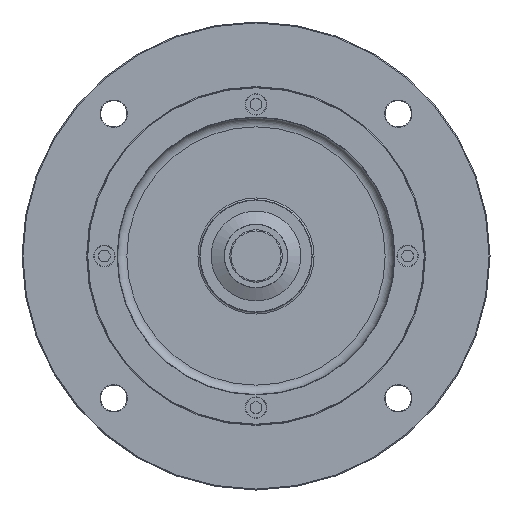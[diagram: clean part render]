
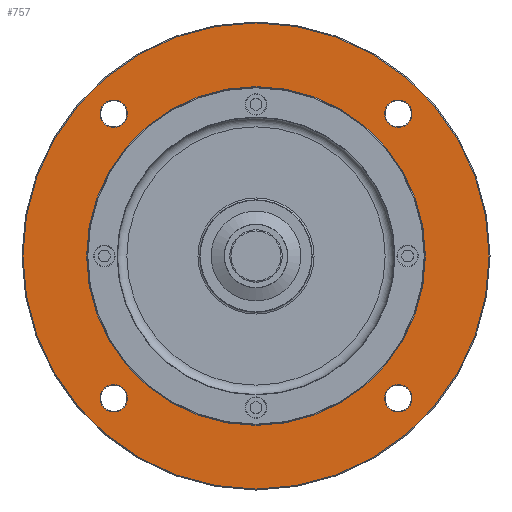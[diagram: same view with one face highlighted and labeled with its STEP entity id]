
A CAD part, front view. The second image highlights one B-rep face of the part: STEP entity #757.
In plain terms, the highlighted planar face has unit normal (0, -1, 0).
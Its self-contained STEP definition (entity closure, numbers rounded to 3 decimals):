
#757=ADVANCED_FACE('',(#1325,#1326,#1327,#1328,#1329,#1127),#1050,.T.);
#1050=PLANE('',#4331);
#1127=FACE_OUTER_BOUND('',#1662,.T.);
#1325=FACE_BOUND('',#1657,.T.);
#1326=FACE_BOUND('',#1658,.T.);
#1327=FACE_BOUND('',#1659,.T.);
#1328=FACE_BOUND('',#1660,.T.);
#1329=FACE_BOUND('',#1661,.T.);
#1657=EDGE_LOOP('',(#2182));
#1658=EDGE_LOOP('',(#2183));
#1659=EDGE_LOOP('',(#2184));
#1660=EDGE_LOOP('',(#2185));
#1661=EDGE_LOOP('',(#2186));
#1662=EDGE_LOOP('',(#2187));
#2182=ORIENTED_EDGE('',*,*,#3502,.T.);
#2183=ORIENTED_EDGE('',*,*,#3503,.T.);
#2184=ORIENTED_EDGE('',*,*,#3504,.T.);
#2185=ORIENTED_EDGE('',*,*,#3505,.T.);
#2186=ORIENTED_EDGE('',*,*,#3506,.T.);
#2187=ORIENTED_EDGE('',*,*,#3507,.T.);
#3120=VERTEX_POINT('',#6414);
#3121=VERTEX_POINT('',#6416);
#3122=VERTEX_POINT('',#6418);
#3123=VERTEX_POINT('',#6420);
#3124=VERTEX_POINT('',#6422);
#3125=VERTEX_POINT('',#6424);
#3502=EDGE_CURVE('',#3120,#3120,#3971,.T.);
#3503=EDGE_CURVE('',#3121,#3121,#3972,.T.);
#3504=EDGE_CURVE('',#3122,#3122,#3973,.T.);
#3505=EDGE_CURVE('',#3123,#3123,#3974,.T.);
#3506=EDGE_CURVE('',#3124,#3124,#3975,.T.);
#3507=EDGE_CURVE('',#3125,#3125,#3976,.T.);
#3971=CIRCLE('',#4325,90.5);
#3972=CIRCLE('',#4326,7.3);
#3973=CIRCLE('',#4327,7.3);
#3974=CIRCLE('',#4328,7.3);
#3975=CIRCLE('',#4329,7.3);
#3976=CIRCLE('',#4330,124.5);
#4325=AXIS2_PLACEMENT_3D('',#6413,#4989,#4990);
#4326=AXIS2_PLACEMENT_3D('',#6415,#4991,#4992);
#4327=AXIS2_PLACEMENT_3D('',#6417,#4993,#4994);
#4328=AXIS2_PLACEMENT_3D('',#6419,#4995,#4996);
#4329=AXIS2_PLACEMENT_3D('',#6421,#4997,#4998);
#4330=AXIS2_PLACEMENT_3D('',#6423,#4999,#5000);
#4331=AXIS2_PLACEMENT_3D('',#6425,#5001,#5002);
#4989=DIRECTION('',(0.,1.,0.));
#4990=DIRECTION('',(0.,0.,-1.));
#4991=DIRECTION('',(0.,1.,0.));
#4992=DIRECTION('',(0.,0.,-1.));
#4993=DIRECTION('',(0.,1.,0.));
#4994=DIRECTION('',(0.,0.,-1.));
#4995=DIRECTION('',(0.,1.,0.));
#4996=DIRECTION('',(0.,0.,-1.));
#4997=DIRECTION('',(0.,1.,0.));
#4998=DIRECTION('',(0.,0.,-1.));
#4999=DIRECTION('',(0.,-1.,0.));
#5000=DIRECTION('',(0.,0.,-1.));
#5001=DIRECTION('',(0.,-1.,0.));
#5002=DIRECTION('',(0.,0.,-1.));
#6413=CARTESIAN_POINT('',(0.,0.,0.));
#6414=CARTESIAN_POINT('',(0.,0.,-90.5));
#6415=CARTESIAN_POINT('',(76.014,0.,76.014));
#6416=CARTESIAN_POINT('',(76.014,0.,68.714));
#6417=CARTESIAN_POINT('',(76.014,0.,-76.014));
#6418=CARTESIAN_POINT('',(76.014,0.,-83.314));
#6419=CARTESIAN_POINT('',(-76.014,0.,-76.014));
#6420=CARTESIAN_POINT('',(-76.014,0.,-83.314));
#6421=CARTESIAN_POINT('',(-76.014,0.,76.014));
#6422=CARTESIAN_POINT('',(-76.014,0.,68.714));
#6423=CARTESIAN_POINT('',(0.,0.,0.));
#6424=CARTESIAN_POINT('',(0.,0.,-124.5));
#6425=CARTESIAN_POINT('',(0.,0.,0.));
